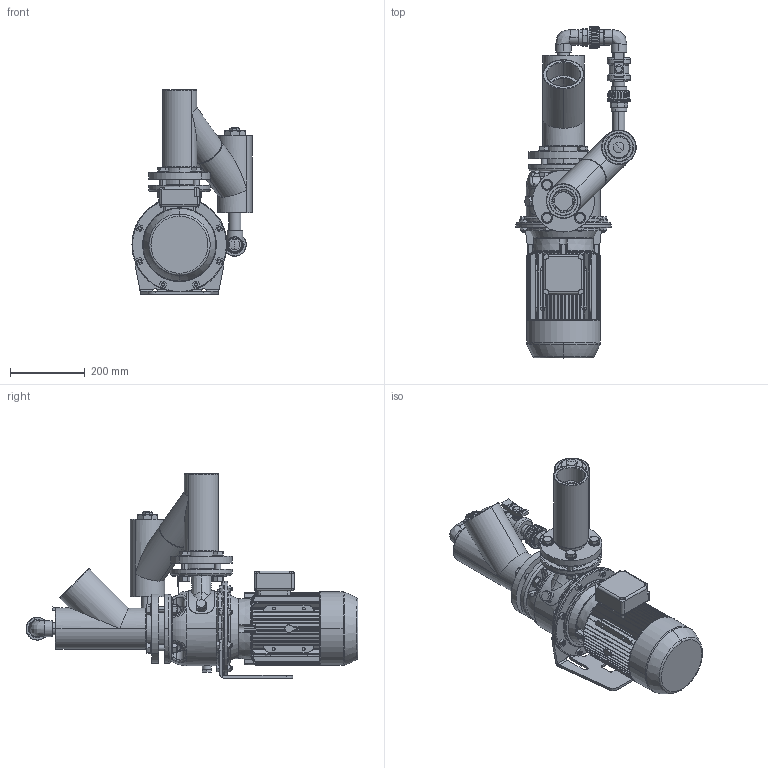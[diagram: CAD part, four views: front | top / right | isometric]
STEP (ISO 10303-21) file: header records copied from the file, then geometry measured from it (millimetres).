
FILE_DESCRIPTION (( 'STEP AP203' ), '1' );
FILE_NAME ('Lowara SHE 50-125 z.a.z handbed. by-pass.STEP', '2011-04-07T06:58:16', ( '' ), ( '' ), 'SwSTEP 2.0', 'SolidWorks 2010', '' );
FILE_SCHEMA (( 'CONFIG_CONTROL_DESIGN' ));
Products named in the file (1): Lowara SHE 50-125 z.a.z handbed. by-pass
Bounding box: 320.9 x 886.89 x 545.48 mm (x, y, z)
Volume: 19619099.3 mm3; surface area: 2264983.2 mm2
Topology: 63 solids, 65 shells, 2791 faces, 7039 edges, 4393 vertices
Faces by surface type: plane 1059, cylinder 859, cone 469, bspline 378, torus 26
Entity records: 118638 total; most frequent: CARTESIAN_POINT 55804, ORIENTED_EDGE 13880, DIRECTION 12050, EDGE_CURVE 6940, AXIS2_PLACEMENT_3D 4730, VERTEX_POINT 4393, EDGE_LOOP 3063, FACE_OUTER_BOUND 2791
